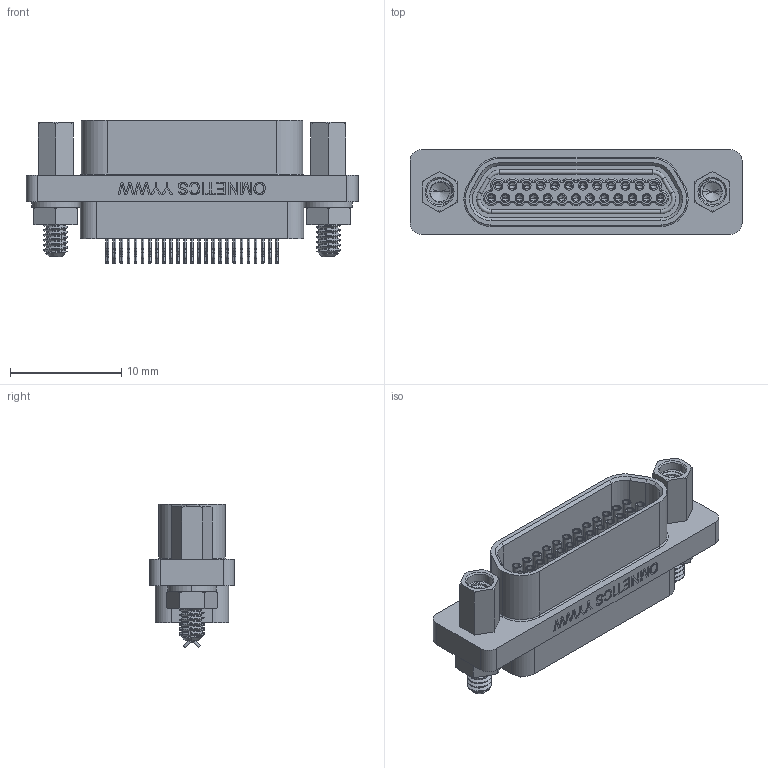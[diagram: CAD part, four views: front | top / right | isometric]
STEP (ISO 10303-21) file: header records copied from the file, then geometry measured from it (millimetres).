
FILE_DESCRIPTION (( 'STEP AP214' ), '1' );
FILE_NAME ('A99901-025 REV A.STEP', '2021-01-22T20:59:13', ( '' ), ( '' ), 'SwSTEP 2.0', 'SolidWorks 2019', '' );
FILE_SCHEMA (( 'AUTOMOTIVE_DESIGN' ));
Length unit declared in the file: inch
Products named in the file (1): A99901-025 REV A
Bounding box: 29.84 x 7.63 x 12.89 mm (x, y, z)
Volume: 1269 mm3; surface area: 2709.4 mm2
Topology: 1 solids, 54 shells, 1635 faces, 3801 edges, 2312 vertices
Faces by surface type: cylinder 848, plane 376, torus 213, cone 113, bspline 85
Entity records: 77181 total; most frequent: CARTESIAN_POINT 22601, DIRECTION 7662, ORIENTED_EDGE 7482, EDGE_CURVE 3741, AXIS2_PLACEMENT_3D 3093, VERTEX_POINT 2312, EDGE_LOOP 1845, ADVANCED_FACE 1635
